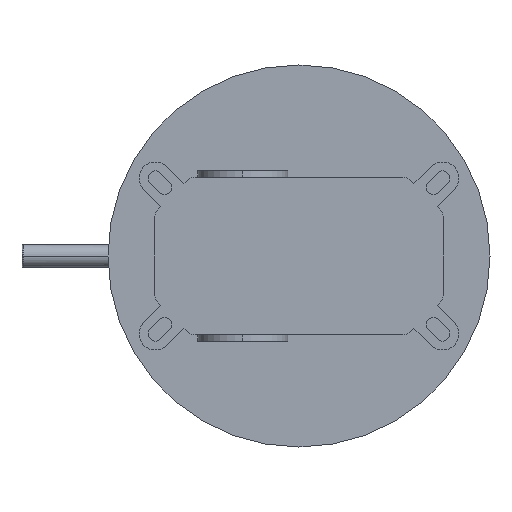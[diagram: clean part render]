
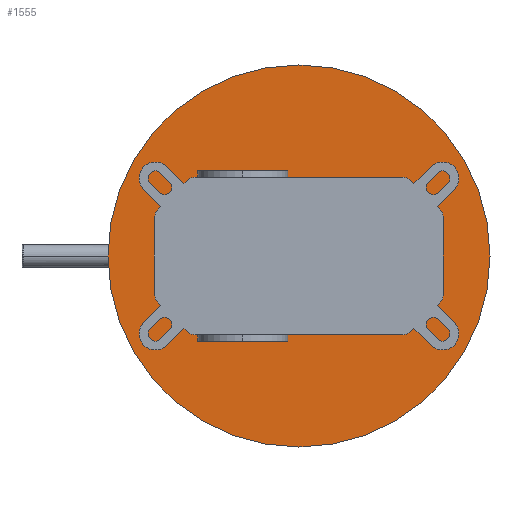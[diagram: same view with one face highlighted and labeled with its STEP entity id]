
A CAD part, front view. The second image highlights one B-rep face of the part: STEP entity #1555.
In plain terms, the highlighted planar face has unit normal (0, -1, 0).
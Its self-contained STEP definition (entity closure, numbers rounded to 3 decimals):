
#44=DIRECTION('',(-0.707,0.,0.707));
#45=VECTOR('',#44,18.485);
#46=CARTESIAN_POINT('',(62.836,63.,20.464));
#47=LINE('',#46,#45);
#68=CARTESIAN_POINT('',(0.,63.,0.));
#69=DIRECTION('',(0.,1.,0.));
#70=DIRECTION('',(0.,0.,-1.));
#71=AXIS2_PLACEMENT_3D('',#68,#69,#70);
#73=CARTESIAN_POINT('',(0.,63.,0.));
#74=DIRECTION('',(0.,1.,0.));
#75=DIRECTION('',(0.,0.,1.));
#76=AXIS2_PLACEMENT_3D('',#73,#74,#75);
#152=DIRECTION('',(-1.,0.,0.));
#153=VECTOR('',#152,92.458);
#154=CARTESIAN_POINT('',(46.229,63.,-35.));
#155=LINE('',#154,#153);
#194=CARTESIAN_POINT('',(-46.229,63.,-30.));
#195=DIRECTION('',(0.,1.,0.));
#196=DIRECTION('',(0.,0.,-1.));
#197=AXIS2_PLACEMENT_3D('',#194,#195,#196);
#199=DIRECTION('',(0.707,0.,-0.707));
#200=VECTOR('',#199,18.485);
#201=CARTESIAN_POINT('',(-62.836,63.,-20.464));
#202=LINE('',#201,#200);
#223=CARTESIAN_POINT('',(-59.3,63.,-16.929));
#224=DIRECTION('',(0.,-1.,0.));
#225=DIRECTION('',(-1.,0.,0.));
#226=AXIS2_PLACEMENT_3D('',#223,#224,#225);
#228=DIRECTION('',(0.,0.,1.));
#229=VECTOR('',#228,33.858);
#230=CARTESIAN_POINT('',(-64.3,63.,-16.929));
#231=LINE('',#230,#229);
#240=CARTESIAN_POINT('',(-59.3,63.,16.929));
#241=DIRECTION('',(0.,1.,0.));
#242=DIRECTION('',(-1.,0.,0.));
#243=AXIS2_PLACEMENT_3D('',#240,#241,#242);
#245=DIRECTION('',(-0.707,0.,-0.707));
#246=VECTOR('',#245,18.485);
#247=CARTESIAN_POINT('',(-49.764,63.,33.536));
#248=LINE('',#247,#246);
#269=CARTESIAN_POINT('',(-46.229,63.,30.));
#270=DIRECTION('',(0.,-1.,0.));
#271=DIRECTION('',(0.,0.,1.));
#272=AXIS2_PLACEMENT_3D('',#269,#270,#271);
#274=DIRECTION('',(1.,0.,0.));
#275=VECTOR('',#274,92.458);
#276=CARTESIAN_POINT('',(-46.229,63.,35.));
#277=LINE('',#276,#275);
#316=CARTESIAN_POINT('',(46.229,63.,30.));
#317=DIRECTION('',(0.,1.,0.));
#318=DIRECTION('',(0.,0.,1.));
#319=AXIS2_PLACEMENT_3D('',#316,#317,#318);
#537=DIRECTION('',(0.707,0.,0.707));
#538=VECTOR('',#537,18.485);
#539=CARTESIAN_POINT('',(49.764,63.,-33.536));
#540=LINE('',#539,#538);
#561=CARTESIAN_POINT('',(46.229,63.,-30.));
#562=DIRECTION('',(0.,-1.,0.));
#563=DIRECTION('',(0.,0.,-1.));
#564=AXIS2_PLACEMENT_3D('',#561,#562,#563);
#617=CARTESIAN_POINT('',(59.3,63.,-16.929));
#618=DIRECTION('',(0.,1.,0.));
#619=DIRECTION('',(1.,0.,0.));
#620=AXIS2_PLACEMENT_3D('',#617,#618,#619);
#622=DIRECTION('',(0.,0.,-1.));
#623=VECTOR('',#622,33.858);
#624=CARTESIAN_POINT('',(64.3,63.,16.929));
#625=LINE('',#624,#623);
#634=CARTESIAN_POINT('',(59.3,63.,16.929));
#635=DIRECTION('',(0.,-1.,0.));
#636=DIRECTION('',(1.,0.,0.));
#637=AXIS2_PLACEMENT_3D('',#634,#635,#636);
#1269=CARTESIAN_POINT('',(0.,63.,-85.));
#1270=CARTESIAN_POINT('',(0.,63.,85.));
#1271=VERTEX_POINT('',#1269);
#1272=VERTEX_POINT('',#1270);
#1277=CARTESIAN_POINT('',(46.229,63.,-35.));
#1278=CARTESIAN_POINT('',(-46.229,63.,-35.));
#1279=VERTEX_POINT('',#1277);
#1280=VERTEX_POINT('',#1278);
#1281=CARTESIAN_POINT('',(-64.3,63.,-16.929));
#1282=CARTESIAN_POINT('',(-64.3,63.,16.929));
#1283=VERTEX_POINT('',#1281);
#1284=VERTEX_POINT('',#1282);
#1285=CARTESIAN_POINT('',(-46.229,63.,35.));
#1286=CARTESIAN_POINT('',(46.229,63.,35.));
#1287=VERTEX_POINT('',#1285);
#1288=VERTEX_POINT('',#1286);
#1289=CARTESIAN_POINT('',(64.3,63.,16.929));
#1290=CARTESIAN_POINT('',(64.3,63.,-16.929));
#1291=VERTEX_POINT('',#1289);
#1292=VERTEX_POINT('',#1290);
#1293=CARTESIAN_POINT('',(-62.836,63.,-20.464));
#1294=CARTESIAN_POINT('',(-49.764,63.,-33.536));
#1295=VERTEX_POINT('',#1293);
#1296=VERTEX_POINT('',#1294);
#1297=CARTESIAN_POINT('',(-49.764,63.,33.536));
#1298=CARTESIAN_POINT('',(-62.836,63.,20.464));
#1299=VERTEX_POINT('',#1297);
#1300=VERTEX_POINT('',#1298);
#1301=CARTESIAN_POINT('',(62.836,63.,20.464));
#1302=CARTESIAN_POINT('',(49.764,63.,33.536));
#1303=VERTEX_POINT('',#1301);
#1304=VERTEX_POINT('',#1302);
#1305=CARTESIAN_POINT('',(49.764,63.,-33.536));
#1306=CARTESIAN_POINT('',(62.836,63.,-20.464));
#1307=VERTEX_POINT('',#1305);
#1308=VERTEX_POINT('',#1306);
#1511=CARTESIAN_POINT('',(0.,63.,0.));
#1512=DIRECTION('',(0.,1.,0.));
#1513=DIRECTION('',(0.,0.,-1.));
#1514=AXIS2_PLACEMENT_3D('',#1511,#1512,#1513);
#1515=PLANE('',#1514);
#1517=ORIENTED_EDGE('',*,*,#1516,.T.);
#1519=ORIENTED_EDGE('',*,*,#1518,.T.);
#1520=EDGE_LOOP('',(#1517,#1519));
#1521=FACE_OUTER_BOUND('',#1520,.F.);
#1523=ORIENTED_EDGE('',*,*,#1522,.F.);
#1525=ORIENTED_EDGE('',*,*,#1524,.T.);
#1527=ORIENTED_EDGE('',*,*,#1526,.T.);
#1529=ORIENTED_EDGE('',*,*,#1528,.F.);
#1531=ORIENTED_EDGE('',*,*,#1530,.F.);
#1533=ORIENTED_EDGE('',*,*,#1532,.T.);
#1534=ORIENTED_EDGE('',*,*,#1494,.T.);
#1536=ORIENTED_EDGE('',*,*,#1535,.F.);
#1538=ORIENTED_EDGE('',*,*,#1537,.F.);
#1540=ORIENTED_EDGE('',*,*,#1539,.T.);
#1542=ORIENTED_EDGE('',*,*,#1541,.T.);
#1544=ORIENTED_EDGE('',*,*,#1543,.F.);
#1546=ORIENTED_EDGE('',*,*,#1545,.F.);
#1548=ORIENTED_EDGE('',*,*,#1547,.T.);
#1550=ORIENTED_EDGE('',*,*,#1549,.T.);
#1552=ORIENTED_EDGE('',*,*,#1551,.F.);
#1553=EDGE_LOOP('',(#1523,#1525,#1527,#1529,#1531,#1533,#1534,#1536,#1538,#1540,
#1542,#1544,#1546,#1548,#1550,#1552));
#1554=FACE_BOUND('',#1553,.F.);
#1555=ADVANCED_FACE('',(#1521,#1554),#1515,.F.);
#72=CIRCLE('',#71,85.);
#77=CIRCLE('',#76,85.);
#198=CIRCLE('',#197,5.);
#227=CIRCLE('',#226,5.);
#244=CIRCLE('',#243,5.);
#273=CIRCLE('',#272,5.);
#320=CIRCLE('',#319,5.);
#565=CIRCLE('',#564,5.);
#621=CIRCLE('',#620,5.);
#638=CIRCLE('',#637,5.);
#1494=EDGE_CURVE('',#1303,#1304,#47,.T.);
#1516=EDGE_CURVE('',#1271,#1272,#72,.T.);
#1518=EDGE_CURVE('',#1272,#1271,#77,.T.);
#1522=EDGE_CURVE('',#1279,#1280,#155,.T.);
#1524=EDGE_CURVE('',#1279,#1307,#565,.T.);
#1526=EDGE_CURVE('',#1307,#1308,#540,.T.);
#1528=EDGE_CURVE('',#1292,#1308,#621,.T.);
#1530=EDGE_CURVE('',#1291,#1292,#625,.T.);
#1532=EDGE_CURVE('',#1291,#1303,#638,.T.);
#1535=EDGE_CURVE('',#1288,#1304,#320,.T.);
#1537=EDGE_CURVE('',#1287,#1288,#277,.T.);
#1539=EDGE_CURVE('',#1287,#1299,#273,.T.);
#1541=EDGE_CURVE('',#1299,#1300,#248,.T.);
#1543=EDGE_CURVE('',#1284,#1300,#244,.T.);
#1545=EDGE_CURVE('',#1283,#1284,#231,.T.);
#1547=EDGE_CURVE('',#1283,#1295,#227,.T.);
#1549=EDGE_CURVE('',#1295,#1296,#202,.T.);
#1551=EDGE_CURVE('',#1280,#1296,#198,.T.);
